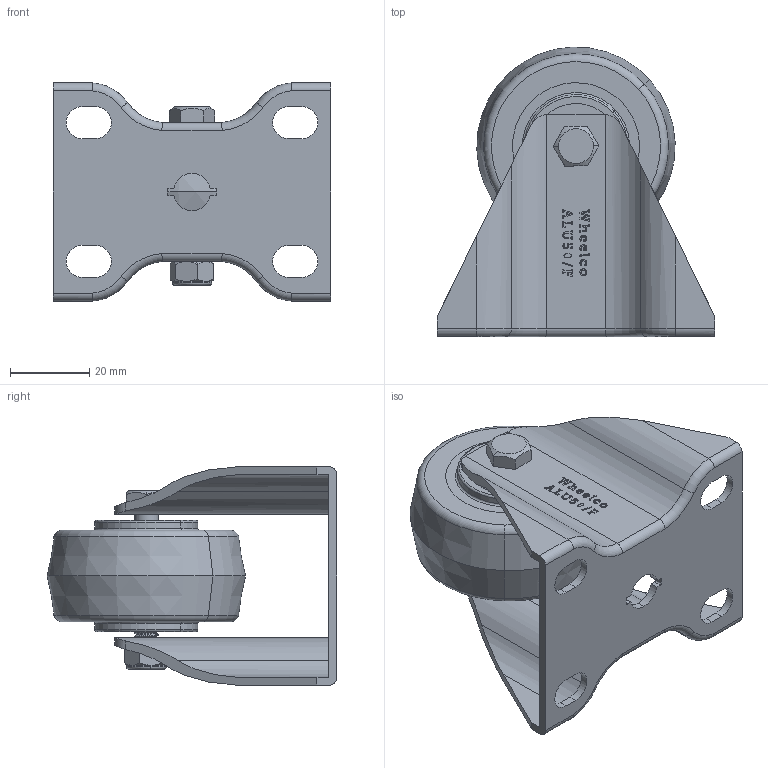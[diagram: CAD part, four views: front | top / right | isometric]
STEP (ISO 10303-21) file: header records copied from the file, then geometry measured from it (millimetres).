
FILE_DESCRIPTION (( 'STEP AP214' ), '1' );
FILE_NAME ('ALU50-F.step', '2024-01-18T00:20:30', ( '' ), ( '' ), 'SwSTEP 2.0', 'SolidWorks 2022', '' );
FILE_SCHEMA (( 'AUTOMOTIVE_DESIGN' ));
Length unit declared in the file: millimetre
Products named in the file (5): ALU 50MM WHEEL; M6x45; ALU50-F; M6NYLOC-WHITE
Assembly tree (4 placements, depth 2):
  ALU50-F
    ALU50-F
    ALU 50MM WHEEL
    M6NYLOC-WHITE
    M6x45
Bounding box: 70 x 72.98 x 55 mm (x, y, z)
Volume: 61512.6 mm3; surface area: 26888 mm2
Topology: 4 solids, 4 shells, 446 faces, 1191 edges, 781 vertices
Faces by surface type: plane 226, cylinder 100, bspline 78, torus 22, cone 20
Entity records: 21668 total; most frequent: CARTESIAN_POINT 10840, ORIENTED_EDGE 2382, DIRECTION 1809, EDGE_CURVE 1191, VERTEX_POINT 781, VECTOR 725, LINE 725, AXIS2_PLACEMENT_3D 542
